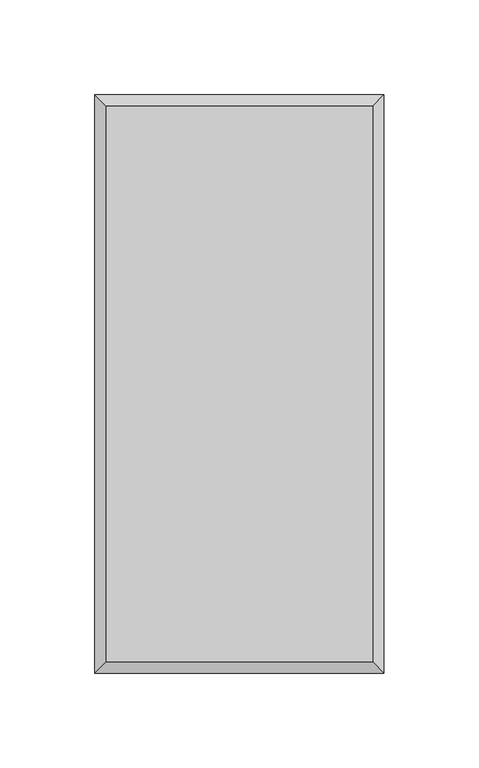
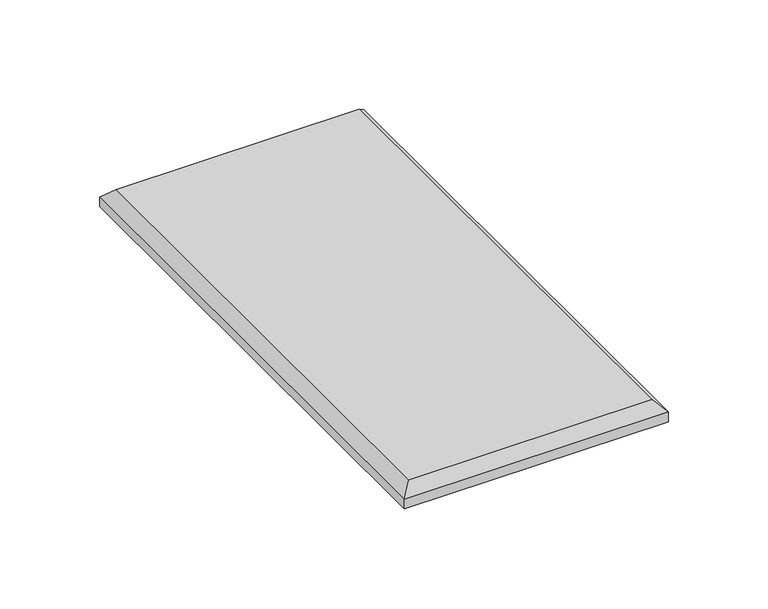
"""IFC4 building model written with IfcOpenShell, lengths in millimetres: proxy geometry, Wall_Wisteria 1.3dm."""

from ifc_helpers import new_model, si_unit, origin, place, context, project, spatial, faceted_brep, source, transform, mapped, element, save


def generic_models_7bc7f488(model_context):
    return source(origin(), model_context, "Body", "Brep", [
        faceted_brep([(-2000.2657436, -116.1022199, 0.0), (-2000.2657436, 188.6977801, 0.0), (-1847.8657436, 188.6977801, 0.0), (-1847.8657436, -116.1022199, 0.0), (-2000.2657436, -116.1022199, 6.0), (-1847.8657436, -116.1022199, 6.0), (-1847.8657436, 188.6977801, 6.0), (-2000.2657436, 188.6977801, 6.0), (-1853.8657436, 182.6977801, 12.0), (-1994.2657436, 182.6977801, 12.0), (-1994.2657436, -110.1022199, 12.0), (-1853.8657436, -110.1022199, 12.0)], [[[0, 1, 2, 3]], [[4, 0, 3, 5]], [[5, 3, 2, 6]], [[6, 2, 1, 7]], [[7, 1, 0, 4]], [[8, 9, 10, 11]], [[4, 5, 11, 10]], [[5, 6, 8, 11]], [[6, 7, 9, 8]], [[7, 4, 10, 9]]]),
    ])


if __name__ == "__main__":
    model = new_model("IFC4")
    model_context = context("Model", 3, world=origin())
    ifc_project = project(units=[si_unit("LENGTHUNIT", "METRE", prefix="MILLI")], contexts=[model_context])
    site = spatial("IfcSite", under=ifc_project)
    building = spatial("IfcBuilding", under=site)
    placement = place(None, origin())
    generic_models_shape = generic_models_7bc7f488(model_context)
    element("IfcBuildingElementProxy", 1, Name="Wall_Wisteria 1.3dm", ObjectType="Wall_Wisteria 1.3dm", at=placement, inside=building, context=model_context, shape_type="MappedRepresentation", body=[
        mapped(generic_models_shape, transform((0.0, 0.0, 0.0), x_axis=(1.0, 0.0, 0.0), y_axis=(0.0, 1.0, 0.0), z_axis=(0.0, 0.0, 1.0))),
    ])
    save(model, "model.ifc")
